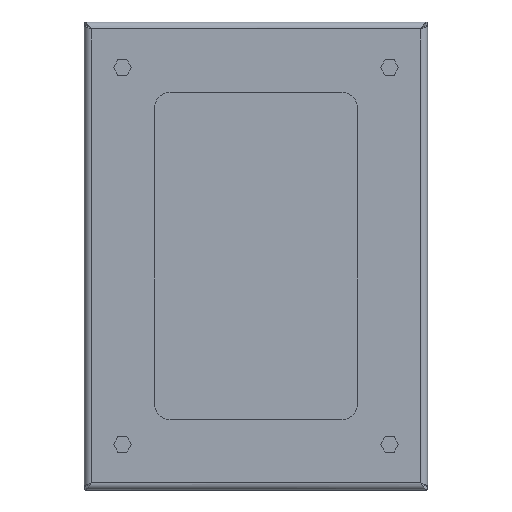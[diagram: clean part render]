
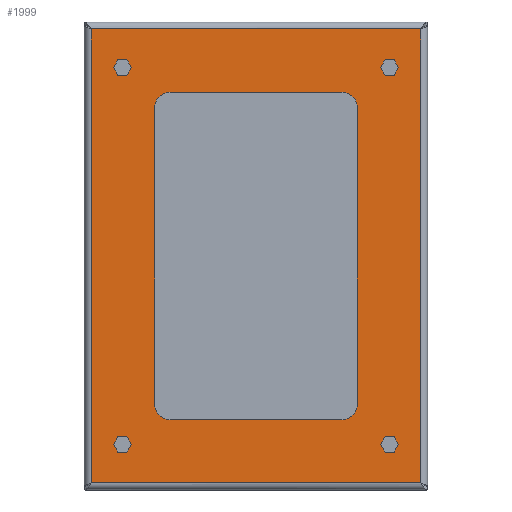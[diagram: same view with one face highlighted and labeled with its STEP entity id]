
A CAD part, top view. The second image highlights one B-rep face of the part: STEP entity #1999.
In plain terms, the highlighted planar face has unit normal (0, 0, 1).
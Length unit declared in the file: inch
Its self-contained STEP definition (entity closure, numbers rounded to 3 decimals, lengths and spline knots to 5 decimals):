
#17=DIRECTION('',(-1.,0.,0.));
#18=VECTOR('',#17,2.75);
#19=CARTESIAN_POINT('',(1.375,-2.625,0.2095));
#20=LINE('',#19,#18);
#25=CARTESIAN_POINT('',(1.375,-2.375,0.2095));
#26=DIRECTION('',(0.,0.,1.));
#27=DIRECTION('',(0.,-1.,0.));
#28=AXIS2_PLACEMENT_3D('',#25,#26,#27);
#33=DIRECTION('',(0.,-1.,0.));
#34=VECTOR('',#33,4.75);
#35=CARTESIAN_POINT('',(1.625,2.375,0.2095));
#36=LINE('',#35,#34);
#40=CARTESIAN_POINT('',(1.375,2.375,0.2095));
#41=DIRECTION('',(0.,0.,1.));
#42=DIRECTION('',(1.,0.,0.));
#43=AXIS2_PLACEMENT_3D('',#40,#41,#42);
#48=DIRECTION('',(1.,0.,0.));
#49=VECTOR('',#48,2.75);
#50=CARTESIAN_POINT('',(-1.375,2.625,0.2095));
#51=LINE('',#50,#49);
#55=CARTESIAN_POINT('',(-1.375,2.375,0.2095));
#56=DIRECTION('',(0.,0.,1.));
#57=DIRECTION('',(0.,1.,0.));
#58=AXIS2_PLACEMENT_3D('',#55,#56,#57);
#63=DIRECTION('',(0.,1.,0.));
#64=VECTOR('',#63,4.75);
#65=CARTESIAN_POINT('',(-1.625,-2.375,0.2095));
#66=LINE('',#65,#64);
#70=CARTESIAN_POINT('',(-1.375,-2.375,0.2095));
#71=DIRECTION('',(0.,0.,1.));
#72=DIRECTION('',(-1.,0.,0.));
#73=AXIS2_PLACEMENT_3D('',#70,#71,#72);
#78=CARTESIAN_POINT('',(-2.14063,3.01975,0.2095));
#79=DIRECTION('',(0.,0.,1.));
#80=DIRECTION('',(-1.,0.,0.));
#81=AXIS2_PLACEMENT_3D('',#78,#79,#80);
#86=CARTESIAN_POINT('',(-2.14063,3.01975,0.2095));
#87=DIRECTION('',(0.,0.,1.));
#88=DIRECTION('',(1.,0.,0.));
#89=AXIS2_PLACEMENT_3D('',#86,#87,#88);
#94=CARTESIAN_POINT('',(2.14063,3.01975,0.2095));
#95=DIRECTION('',(0.,0.,1.));
#96=DIRECTION('',(-1.,0.,0.));
#97=AXIS2_PLACEMENT_3D('',#94,#95,#96);
#102=CARTESIAN_POINT('',(2.14063,3.01975,0.2095));
#103=DIRECTION('',(0.,0.,1.));
#104=DIRECTION('',(1.,0.,0.));
#105=AXIS2_PLACEMENT_3D('',#102,#103,#104);
#110=CARTESIAN_POINT('',(2.14063,-3.01975,0.2095));
#111=DIRECTION('',(0.,0.,1.));
#112=DIRECTION('',(-1.,0.,0.));
#113=AXIS2_PLACEMENT_3D('',#110,#111,#112);
#118=CARTESIAN_POINT('',(2.14063,-3.01975,0.2095));
#119=DIRECTION('',(0.,0.,1.));
#120=DIRECTION('',(1.,0.,0.));
#121=AXIS2_PLACEMENT_3D('',#118,#119,#120);
#126=CARTESIAN_POINT('',(-2.14063,-3.01975,0.2095));
#127=DIRECTION('',(0.,0.,1.));
#128=DIRECTION('',(-1.,0.,0.));
#129=AXIS2_PLACEMENT_3D('',#126,#127,#128);
#134=CARTESIAN_POINT('',(-2.14063,-3.01975,0.2095));
#135=DIRECTION('',(0.,0.,1.));
#136=DIRECTION('',(1.,0.,0.));
#137=AXIS2_PLACEMENT_3D('',#134,#135,#136);
#1191=DIRECTION('',(1.,0.,0.));
#1192=VECTOR('',#1191,5.276);
#1193=CARTESIAN_POINT('',(-2.638,-3.638,0.2095));
#1194=LINE('',#1193,#1192);
#1296=DIRECTION('',(0.,1.,0.));
#1297=VECTOR('',#1296,7.276);
#1298=CARTESIAN_POINT('',(2.638,-3.638,0.2095));
#1299=LINE('',#1298,#1297);
#1469=DIRECTION('',(-1.,0.,0.));
#1470=VECTOR('',#1469,5.276);
#1471=CARTESIAN_POINT('',(2.638,3.638,0.2095));
#1472=LINE('',#1471,#1470);
#1650=DIRECTION('',(0.,-1.,0.));
#1651=VECTOR('',#1650,7.276);
#1652=CARTESIAN_POINT('',(-2.638,3.638,0.2095));
#1653=LINE('',#1652,#1651);
#1766=CARTESIAN_POINT('',(-2.638,3.638,0.2095));
#1767=CARTESIAN_POINT('',(-2.638,-3.638,0.2095));
#1768=VERTEX_POINT('',#1766);
#1769=VERTEX_POINT('',#1767);
#1770=CARTESIAN_POINT('',(2.638,-3.638,0.2095));
#1771=CARTESIAN_POINT('',(2.638,3.638,0.2095));
#1772=VERTEX_POINT('',#1770);
#1773=VERTEX_POINT('',#1771);
#1798=CARTESIAN_POINT('',(-2.24713,3.01975,0.2095));
#1799=CARTESIAN_POINT('',(-2.03413,3.01975,0.2095));
#1800=VERTEX_POINT('',#1798);
#1801=VERTEX_POINT('',#1799);
#1802=CARTESIAN_POINT('',(2.03413,3.01975,0.2095));
#1803=CARTESIAN_POINT('',(2.24713,3.01975,0.2095));
#1804=VERTEX_POINT('',#1802);
#1805=VERTEX_POINT('',#1803);
#1806=CARTESIAN_POINT('',(2.03413,-3.01975,0.2095));
#1807=CARTESIAN_POINT('',(2.24713,-3.01975,0.2095));
#1808=VERTEX_POINT('',#1806);
#1809=VERTEX_POINT('',#1807);
#1810=CARTESIAN_POINT('',(-2.24713,-3.01975,0.2095));
#1811=CARTESIAN_POINT('',(-2.03413,-3.01975,0.2095));
#1812=VERTEX_POINT('',#1810);
#1813=VERTEX_POINT('',#1811);
#1910=CARTESIAN_POINT('',(1.375,-2.625,0.2095));
#1911=CARTESIAN_POINT('',(-1.375,-2.625,0.2095));
#1912=VERTEX_POINT('',#1910);
#1913=VERTEX_POINT('',#1911);
#1914=CARTESIAN_POINT('',(-1.625,-2.375,0.2095));
#1915=VERTEX_POINT('',#1914);
#1916=CARTESIAN_POINT('',(-1.625,2.375,0.2095));
#1917=VERTEX_POINT('',#1916);
#1918=CARTESIAN_POINT('',(-1.375,2.625,0.2095));
#1919=VERTEX_POINT('',#1918);
#1920=CARTESIAN_POINT('',(1.375,2.625,0.2095));
#1921=VERTEX_POINT('',#1920);
#1922=CARTESIAN_POINT('',(1.625,2.375,0.2095));
#1923=VERTEX_POINT('',#1922);
#1924=CARTESIAN_POINT('',(1.625,-2.375,0.2095));
#1925=VERTEX_POINT('',#1924);
#1942=CARTESIAN_POINT('',(0.,0.,0.2095));
#1943=DIRECTION('',(0.,0.,1.));
#1944=DIRECTION('',(1.,0.,0.));
#1945=AXIS2_PLACEMENT_3D('',#1942,#1943,#1944);
#1946=PLANE('',#1945);
#1948=ORIENTED_EDGE('',*,*,#1947,.F.);
#1950=ORIENTED_EDGE('',*,*,#1949,.F.);
#1952=ORIENTED_EDGE('',*,*,#1951,.F.);
#1954=ORIENTED_EDGE('',*,*,#1953,.F.);
#1955=EDGE_LOOP('',(#1948,#1950,#1952,#1954));
#1956=FACE_OUTER_BOUND('',#1955,.F.);
#1958=ORIENTED_EDGE('',*,*,#1957,.T.);
#1960=ORIENTED_EDGE('',*,*,#1959,.T.);
#1961=EDGE_LOOP('',(#1958,#1960));
#1962=FACE_BOUND('',#1961,.F.);
#1964=ORIENTED_EDGE('',*,*,#1963,.T.);
#1966=ORIENTED_EDGE('',*,*,#1965,.T.);
#1967=EDGE_LOOP('',(#1964,#1966));
#1968=FACE_BOUND('',#1967,.F.);
#1970=ORIENTED_EDGE('',*,*,#1969,.T.);
#1972=ORIENTED_EDGE('',*,*,#1971,.T.);
#1973=EDGE_LOOP('',(#1970,#1972));
#1974=FACE_BOUND('',#1973,.F.);
#1976=ORIENTED_EDGE('',*,*,#1975,.T.);
#1978=ORIENTED_EDGE('',*,*,#1977,.T.);
#1979=EDGE_LOOP('',(#1976,#1978));
#1980=FACE_BOUND('',#1979,.F.);
#1982=ORIENTED_EDGE('',*,*,#1981,.F.);
#1984=ORIENTED_EDGE('',*,*,#1983,.T.);
#1986=ORIENTED_EDGE('',*,*,#1985,.F.);
#1988=ORIENTED_EDGE('',*,*,#1987,.T.);
#1990=ORIENTED_EDGE('',*,*,#1989,.F.);
#1992=ORIENTED_EDGE('',*,*,#1991,.T.);
#1994=ORIENTED_EDGE('',*,*,#1993,.F.);
#1996=ORIENTED_EDGE('',*,*,#1995,.T.);
#1997=EDGE_LOOP('',(#1982,#1984,#1986,#1988,#1990,#1992,#1994,#1996));
#1998=FACE_BOUND('',#1997,.F.);
#29=CIRCLE('',#28,0.25);
#44=CIRCLE('',#43,0.25);
#59=CIRCLE('',#58,0.25);
#74=CIRCLE('',#73,0.25);
#82=CIRCLE('',#81,0.1065);
#90=CIRCLE('',#89,0.1065);
#98=CIRCLE('',#97,0.1065);
#106=CIRCLE('',#105,0.1065);
#114=CIRCLE('',#113,0.1065);
#122=CIRCLE('',#121,0.1065);
#130=CIRCLE('',#129,0.1065);
#138=CIRCLE('',#137,0.1065);
#1947=EDGE_CURVE('',#1769,#1772,#1194,.T.);
#1949=EDGE_CURVE('',#1768,#1769,#1653,.T.);
#1951=EDGE_CURVE('',#1773,#1768,#1472,.T.);
#1953=EDGE_CURVE('',#1772,#1773,#1299,.T.);
#1957=EDGE_CURVE('',#1800,#1801,#82,.T.);
#1959=EDGE_CURVE('',#1801,#1800,#90,.T.);
#1963=EDGE_CURVE('',#1804,#1805,#98,.T.);
#1965=EDGE_CURVE('',#1805,#1804,#106,.T.);
#1969=EDGE_CURVE('',#1808,#1809,#114,.T.);
#1971=EDGE_CURVE('',#1809,#1808,#122,.T.);
#1975=EDGE_CURVE('',#1812,#1813,#130,.T.);
#1977=EDGE_CURVE('',#1813,#1812,#138,.T.);
#1981=EDGE_CURVE('',#1912,#1913,#20,.T.);
#1983=EDGE_CURVE('',#1912,#1925,#29,.T.);
#1985=EDGE_CURVE('',#1923,#1925,#36,.T.);
#1987=EDGE_CURVE('',#1923,#1921,#44,.T.);
#1989=EDGE_CURVE('',#1919,#1921,#51,.T.);
#1991=EDGE_CURVE('',#1919,#1917,#59,.T.);
#1993=EDGE_CURVE('',#1915,#1917,#66,.T.);
#1995=EDGE_CURVE('',#1915,#1913,#74,.T.);
#1999=ADVANCED_FACE('',(#1956,#1962,#1968,#1974,#1980,#1998),#1946,.T.);
